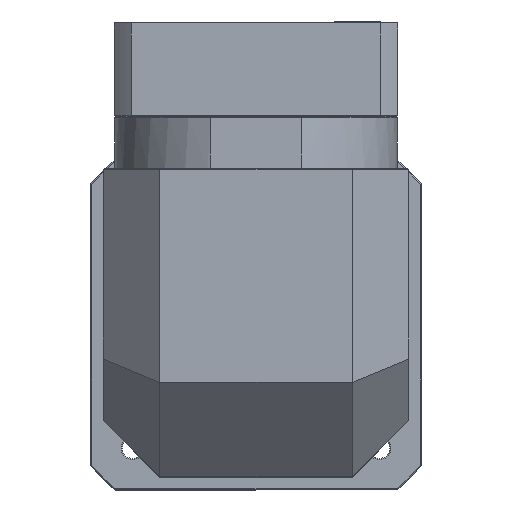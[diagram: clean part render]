
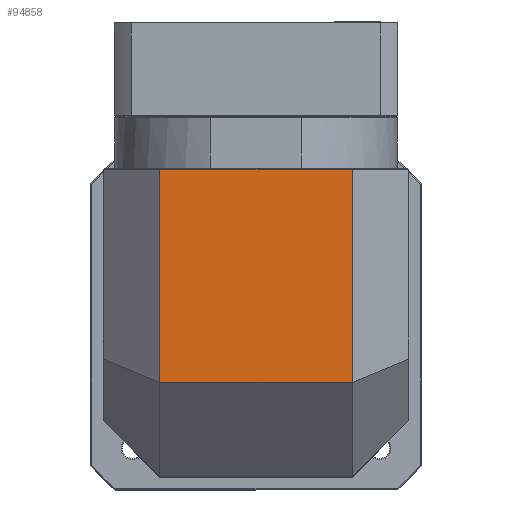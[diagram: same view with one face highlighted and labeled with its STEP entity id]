
A CAD part, top view. The second image highlights one B-rep face of the part: STEP entity #94858.
In plain terms, the highlighted planar face has unit normal (0, 0, 1).
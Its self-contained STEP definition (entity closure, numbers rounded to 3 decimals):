
#2064 = VERTEX_POINT ( 'NONE', #16025 ) ;
#2235 = CARTESIAN_POINT ( 'NONE',  ( -33.293, 177.505, 72.483 ) ) ;
#7833 = PLANE ( 'NONE',  #109509 ) ;
#10781 = EDGE_CURVE ( 'NONE', #2064, #122202, #46545, .T. ) ;
#16025 = CARTESIAN_POINT ( 'NONE',  ( -33.293, 177.005, 72.483 ) ) ;
#20596 = DIRECTION ( 'NONE',  ( 0., 1., 0. ) ) ;
#21908 = VECTOR ( 'NONE', #89569, 1000. ) ;
#22883 = VECTOR ( 'NONE', #44568, 1000. ) ;
#41723 = CARTESIAN_POINT ( 'NONE',  ( -135.293, 64.005, 72.483 ) ) ;
#44310 = EDGE_CURVE ( 'NONE', #124620, #126185, #102547, .T. ) ;
#44568 = DIRECTION ( 'NONE',  ( 1., 0., 0. ) ) ;
#44987 = CARTESIAN_POINT ( 'NONE',  ( -165.293, 64.005, 72.483 ) ) ;
#45606 = ORIENTED_EDGE ( 'NONE', *, *, #10781, .T. ) ;
#46545 = LINE ( 'NONE', #87295, #102836 ) ;
#51417 = DIRECTION ( 'NONE',  ( 1., 0., 0. ) ) ;
#59986 = CARTESIAN_POINT ( 'NONE',  ( -33.293, 64.005, 72.483 ) ) ;
#66341 = ORIENTED_EDGE ( 'NONE', *, *, #44310, .T. ) ;
#70841 = ORIENTED_EDGE ( 'NONE', *, *, #84826, .F. ) ;
#72968 = FACE_OUTER_BOUND ( 'NONE', #74551, .T. ) ;
#74551 = EDGE_LOOP ( 'NONE', ( #103792, #45606, #70841, #66341 ) ) ;
#84826 = EDGE_CURVE ( 'NONE', #124620, #122202, #87159, .T. ) ;
#87159 = LINE ( 'NONE', #89100, #90251 ) ;
#87295 = CARTESIAN_POINT ( 'NONE',  ( -165.293, 177.005, 72.483 ) ) ;
#89100 = CARTESIAN_POINT ( 'NONE',  ( -135.293, 95.755, 72.483 ) ) ;
#89569 = DIRECTION ( 'NONE',  ( 0., 1., 0. ) ) ;
#90251 = VECTOR ( 'NONE', #20596, 1000. ) ;
#93825 = EDGE_CURVE ( 'NONE', #126185, #2064, #109357, .T. ) ;
#94858 = ADVANCED_FACE ( 'NONE', ( #72968 ), #7833, .F. ) ;
#102547 = LINE ( 'NONE', #44987, #22883 ) ;
#102836 = VECTOR ( 'NONE', #106988, 1000. ) ;
#103792 = ORIENTED_EDGE ( 'NONE', *, *, #93825, .T. ) ;
#106988 = DIRECTION ( 'NONE',  ( -1., 0., 0. ) ) ;
#109357 = LINE ( 'NONE', #2235, #21908 ) ;
#109509 = AXIS2_PLACEMENT_3D ( 'NONE', #110401, #110842, #51417 ) ;
#110401 = CARTESIAN_POINT ( 'NONE',  ( -165.293, 177.505, 72.483 ) ) ;
#110842 = DIRECTION ( 'NONE',  ( 0., 0., -1. ) ) ;
#118072 = CARTESIAN_POINT ( 'NONE',  ( -135.293, 177.005, 72.483 ) ) ;
#122202 = VERTEX_POINT ( 'NONE', #118072 ) ;
#124620 = VERTEX_POINT ( 'NONE', #41723 ) ;
#126185 = VERTEX_POINT ( 'NONE', #59986 ) ;
